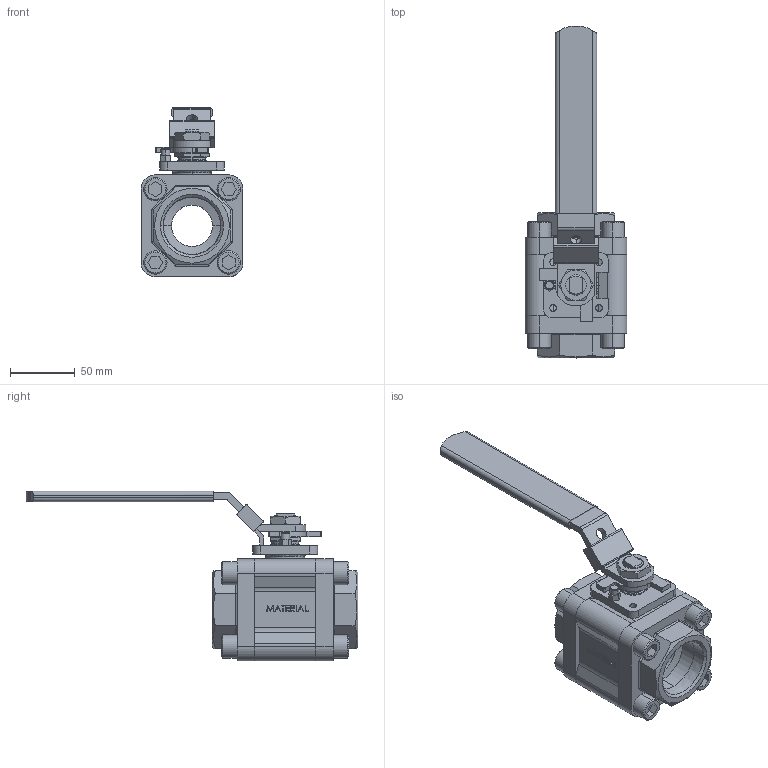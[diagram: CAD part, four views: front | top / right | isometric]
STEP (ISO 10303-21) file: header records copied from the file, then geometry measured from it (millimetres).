
FILE_DESCRIPTION(('Open CASCADE Model'),'2;1');
FILE_NAME('Open CASCADE Shape Model','2021-10-26T09:35:24',('Author'),( 'Open CASCADE'),'Open CASCADE STEP processor 7.3','Open CASCADE 7.3' ,'Unknown');
FILE_SCHEMA(('AUTOMOTIVE_DESIGN { 1 0 10303 214 1 1 1 1 }'));
Length unit declared in the file: millimetre
Products named in the file (27): Open CASCADE STEP translator 7.3 1; Open CASCADE STEP translator 7.3 1.1; Open CASCADE STEP translator 7.3 1.2; Open CASCADE STEP translator 7.3 1.3; Open CASCADE STEP translator 7.3 1.4; Open CASCADE STEP translator 7.3 1.5; Open CASCADE STEP translator 7.3 1.6; Open CASCADE STEP translator 7.3 1.7; Open CASCADE STEP translator 7.3 1.8; Open CASCADE STEP translator 7.3 1.9; Open CASCADE STEP translator 7.3 1.10; Open CASCADE STEP translator 7.3 1.11; Open CASCADE STEP translator 7.3 1.12; Open CASCADE STEP translator 7.3 1.13; Open CASCADE STEP translator 7.3 1.14; Open CASCADE STEP translator 7.3 1.15; Open CASCADE STEP translator 7.3 1.16; Open CASCADE STEP translator 7.3 1.17; Open CASCADE STEP translator 7.3 1.18; Open CASCADE STEP translator 7.3 1.19; Open CASCADE STEP translator 7.3 1.20; Open CASCADE STEP translator 7.3 1.21; Open CASCADE STEP translator 7.3 1.22; Open CASCADE STEP translator 7.3 1.23; Open CASCADE STEP translator 7.3 1.24; Open CASCADE STEP translator 7.3 1.25; Open CASCADE STEP translator 7.3 1.26
Assembly tree (26 placements, depth 2):
  Open CASCADE STEP translator 7.3 1
    Open CASCADE STEP translator 7.3 1.1
    Open CASCADE STEP translator 7.3 1.2
    Open CASCADE STEP translator 7.3 1.3
    Open CASCADE STEP translator 7.3 1.4
    Open CASCADE STEP translator 7.3 1.5
    Open CASCADE STEP translator 7.3 1.6
    Open CASCADE STEP translator 7.3 1.7
    Open CASCADE STEP translator 7.3 1.8
    Open CASCADE STEP translator 7.3 1.9
    Open CASCADE STEP translator 7.3 1.10
    Open CASCADE STEP translator 7.3 1.11
    Open CASCADE STEP translator 7.3 1.12
    Open CASCADE STEP translator 7.3 1.13
    Open CASCADE STEP translator 7.3 1.14
    Open CASCADE STEP translator 7.3 1.15
    Open CASCADE STEP translator 7.3 1.16
    Open CASCADE STEP translator 7.3 1.17
    Open CASCADE STEP translator 7.3 1.18
    Open CASCADE STEP translator 7.3 1.19
    Open CASCADE STEP translator 7.3 1.20
    Open CASCADE STEP translator 7.3 1.21
    Open CASCADE STEP translator 7.3 1.22
    Open CASCADE STEP translator 7.3 1.23
    Open CASCADE STEP translator 7.3 1.24
    Open CASCADE STEP translator 7.3 1.25
    Open CASCADE STEP translator 7.3 1.26
Bounding box: 78.62 x 256.02 x 130.8 mm (x, y, z)
Volume: 497292.2 mm3; surface area: 182812.4 mm2
Topology: 26 solids, 26 shells, 876 faces, 2162 edges, 1397 vertices
Faces by surface type: plane 414, cylinder 243, cone 128, bspline 91
Entity records: 78701 total; most frequent: CARTESIAN_POINT 36387, DIRECTION 7366, ORIENTED_EDGE 4320, PCURVE 4320, DEFINITIONAL_REPRESENTATION 4320, LINE 4288, VECTOR 4288, EDGE_CURVE 2160
